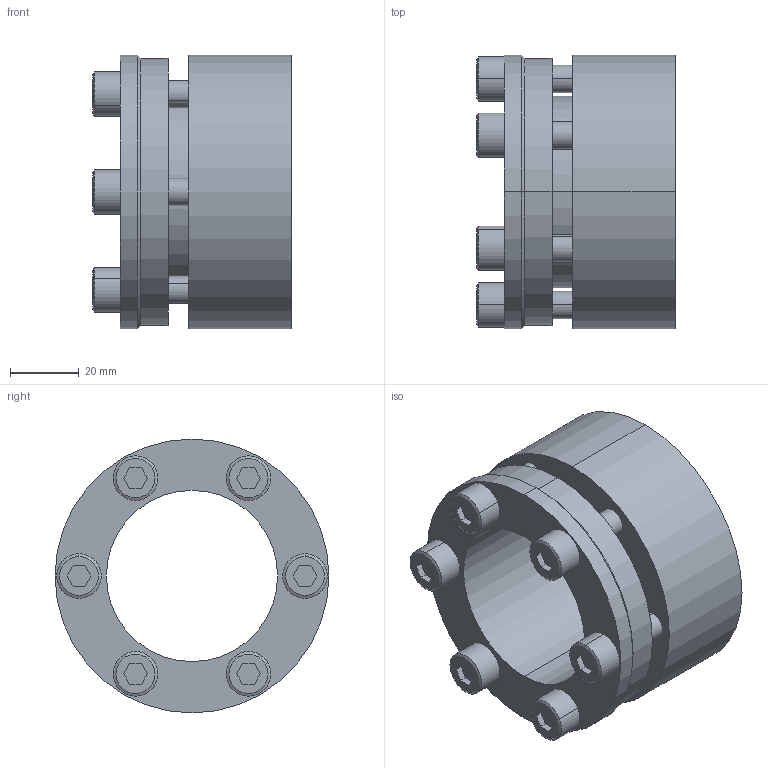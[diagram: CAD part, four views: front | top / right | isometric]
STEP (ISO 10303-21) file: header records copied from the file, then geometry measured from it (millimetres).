
FILE_DESCRIPTION (( 'STEP AP203' ), '1' );
FILE_NAME ('SD-50.step', '2009-09-29T16:31:15', ( 'USER' ), ( 'HOME' ), 'SwSTEP 2.0', 'SolidWorks 2007', '' );
FILE_SCHEMA (( 'CONFIG_CONTROL_DESIGN' ));
Length unit declared in the file: millimetre
Products named in the file (1): SD-50
Bounding box: 58 x 80 x 80 mm (x, y, z)
Volume: 141382.5 mm3; surface area: 44191.5 mm2
Topology: 7 solids, 7 shells, 136 faces, 308 edges, 200 vertices
Faces by surface type: plane 64, cylinder 58, cone 14
Entity records: 3949 total; most frequent: DIRECTION 710, CARTESIAN_POINT 645, ORIENTED_EDGE 616, EDGE_CURVE 308, AXIS2_PLACEMENT_3D 265, VERTEX_POINT 200, VECTOR 180, LINE 180
